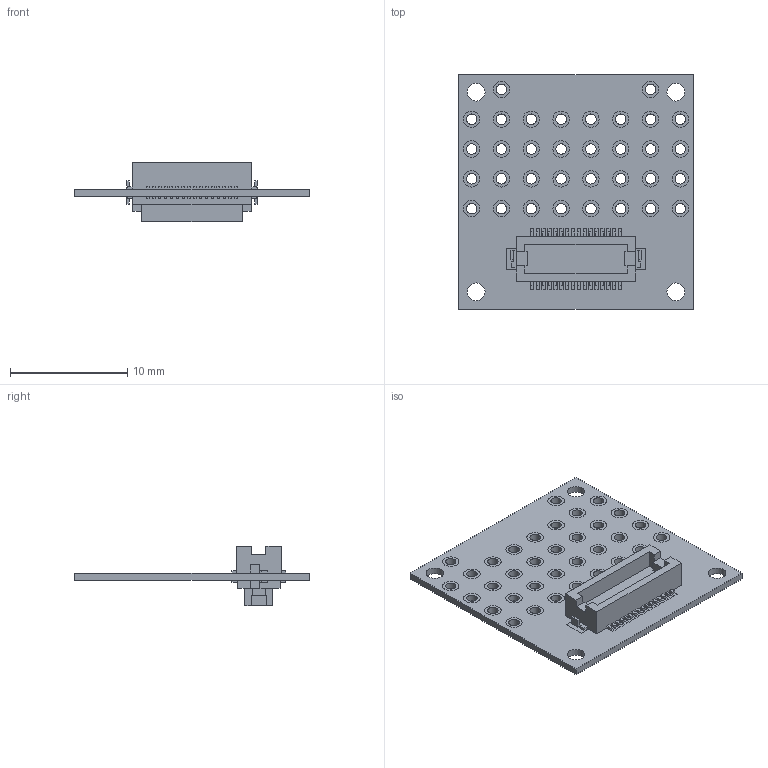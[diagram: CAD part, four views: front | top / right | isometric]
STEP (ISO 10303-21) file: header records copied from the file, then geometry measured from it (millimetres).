
FILE_DESCRIPTION(('FreeCAD Model'),'2;1');
FILE_NAME('/home/devy/MEGA/TinyCircuits/Assets/BoardsANDBoardModels_2/Shields/TinyCircuits-TinyShield-Proto_All-ASD2009/cad/TinyShield_PROTO_ASD2009_REV1-STEP.step','2020-07-22T11:43:30',('Author'),(''), 'Open CASCADE STEP processor 7.4','FreeCAD','Unknown');
FILE_SCHEMA(('AUTOMOTIVE_DESIGN { 1 0 10303 214 1 1 1 1 }'));
Products named in the file (1): TinyShield_PROTO_ASD2009_REV1-STEP
Bounding box: 20 x 20 x 5.1 mm (x, y, z)
Volume: 618.8 mm3; surface area: 2608.4 mm2
Topology: 277 solids, 277 shells, 2094 faces, 4396 edges, 2858 vertices
Faces by surface type: plane 1732, cylinder 362
Full cylindrical faces by diameter (mm): 0.5 x6, 0.602 x8, 0.891 x204, 1.397 x136, 1.502 x8
Entity records: 128918 total; most frequent: CARTESIAN_POINT 20811, DIRECTION 17654, LINE 11730, VECTOR 11730, ORIENTED_EDGE 8792, PCURVE 8792, DEFINITIONAL_REPRESENTATION 8792, EDGE_CURVE 4396
